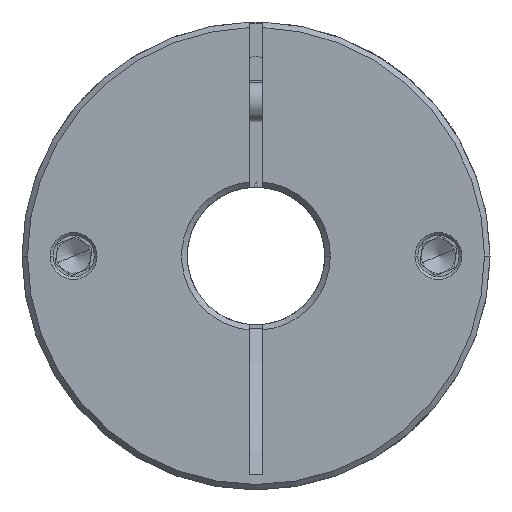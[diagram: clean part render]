
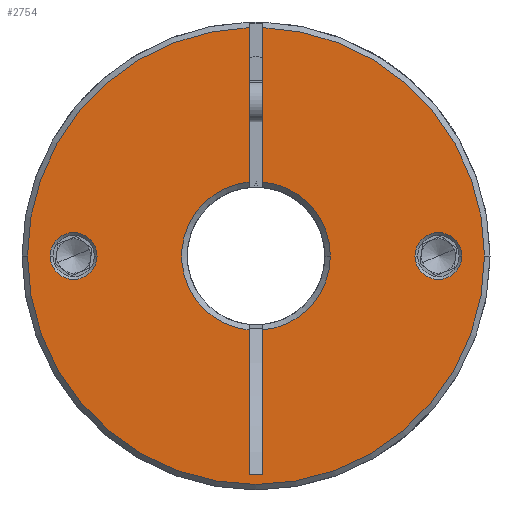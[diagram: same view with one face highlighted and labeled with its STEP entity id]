
A CAD part, front view. The second image highlights one B-rep face of the part: STEP entity #2754.
In plain terms, the highlighted planar face has unit normal (0, -1, 0).
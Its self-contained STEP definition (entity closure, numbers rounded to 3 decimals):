
#97 = DIRECTION ( 'NONE',  ( 1., 0., 0. ) ) ;
#433 = ORIENTED_EDGE ( 'NONE', *, *, #12553, .F. ) ;
#435 = LINE ( 'NONE', #3695, #4535 ) ;
#518 = DIRECTION ( 'NONE',  ( 1., 0., 0. ) ) ;
#563 = CIRCLE ( 'NONE', #6061, 33.2 ) ;
#879 = ORIENTED_EDGE ( 'NONE', *, *, #10888, .T. ) ;
#897 = EDGE_CURVE ( 'NONE', #9100, #3603, #5765, .T. ) ;
#997 = CARTESIAN_POINT ( 'NONE',  ( -2.735, -47.045, 68. ) ) ;
#1147 = ORIENTED_EDGE ( 'NONE', *, *, #2905, .T. ) ;
#1423 = EDGE_CURVE ( 'NONE', #12926, #7653, #7477, .T. ) ;
#1547 = DIRECTION ( 'NONE',  ( 0., 1., 0. ) ) ;
#1656 = EDGE_CURVE ( 'NONE', #6213, #2535, #3729, .T. ) ;
#1668 = ORIENTED_EDGE ( 'NONE', *, *, #1810, .T. ) ;
#1785 = CARTESIAN_POINT ( 'NONE',  ( -2.735, -47.045, 68. ) ) ;
#1810 = EDGE_CURVE ( 'NONE', #10273, #12797, #12224, .T. ) ;
#2020 = EDGE_CURVE ( 'NONE', #12349, #12716, #12710, .T. ) ;
#2041 = ORIENTED_EDGE ( 'NONE', *, *, #4357, .T. ) ;
#2060 = AXIS2_PLACEMENT_3D ( 'NONE', #10991, #1547, #5587 ) ;
#2194 = ORIENTED_EDGE ( 'NONE', *, *, #1656, .T. ) ;
#2365 = CARTESIAN_POINT ( 'NONE',  ( -3.735, -47.045, 101.185 ) ) ;
#2412 = FACE_BOUND ( 'NONE', #7279, .T. ) ;
#2535 = VERTEX_POINT ( 'NONE', #4263 ) ;
#2754 = ADVANCED_FACE ( 'NONE', ( #3829, #2412, #9232 ), #4500, .T. ) ;
#2807 = DIRECTION ( 'NONE',  ( 1., 0., 0. ) ) ;
#2858 = CARTESIAN_POINT ( 'NONE',  ( 8.065, -47.045, 68. ) ) ;
#2905 = EDGE_CURVE ( 'NONE', #12120, #12926, #563, .T. ) ;
#3073 = CARTESIAN_POINT ( 'NONE',  ( -2.735, -47.045, 68. ) ) ;
#3078 = ORIENTED_EDGE ( 'NONE', *, *, #1423, .T. ) ;
#3081 = AXIS2_PLACEMENT_3D ( 'NONE', #3073, #10280, #3160 ) ;
#3088 = CIRCLE ( 'NONE', #3081, 10.8 ) ;
#3160 = DIRECTION ( 'NONE',  ( 1., 0., 0. ) ) ;
#3285 = CARTESIAN_POINT ( 'NONE',  ( -1.735, -47.045, 36.279 ) ) ;
#3293 = AXIS2_PLACEMENT_3D ( 'NONE', #10042, #11085, #7974 ) ;
#3367 = DIRECTION ( 'NONE',  ( 0., 1., 0. ) ) ;
#3476 = LINE ( 'NONE', #13113, #13305 ) ;
#3603 = VERTEX_POINT ( 'NONE', #10607 ) ;
#3637 = CARTESIAN_POINT ( 'NONE',  ( -3.735, -47.045, 68. ) ) ;
#3695 = CARTESIAN_POINT ( 'NONE',  ( -3.735, -47.045, 36.279 ) ) ;
#3729 = CIRCLE ( 'NONE', #2060, 10.8 ) ;
#3829 = FACE_BOUND ( 'NONE', #10576, .T. ) ;
#3868 = ORIENTED_EDGE ( 'NONE', *, *, #4290, .T. ) ;
#3870 = CIRCLE ( 'NONE', #8516, 3.4 ) ;
#3897 = CARTESIAN_POINT ( 'NONE',  ( -3.735, -47.045, 57.246 ) ) ;
#3910 = ORIENTED_EDGE ( 'NONE', *, *, #4295, .F. ) ;
#3963 = CARTESIAN_POINT ( 'NONE',  ( -29.235, -47.045, 68. ) ) ;
#4263 = CARTESIAN_POINT ( 'NONE',  ( -1.735, -47.045, 57.246 ) ) ;
#4290 = EDGE_CURVE ( 'NONE', #2535, #6576, #3476, .T. ) ;
#4295 = EDGE_CURVE ( 'NONE', #12120, #12862, #11824, .T. ) ;
#4357 = EDGE_CURVE ( 'NONE', #12797, #10273, #5413, .T. ) ;
#4500 = PLANE ( 'NONE',  #6141 ) ;
#4535 = VECTOR ( 'NONE', #11015, 1000. ) ;
#4897 = DIRECTION ( 'NONE',  ( 1., 0., 0. ) ) ;
#5003 = DIRECTION ( 'NONE',  ( 1., 0., 0. ) ) ;
#5272 = ORIENTED_EDGE ( 'NONE', *, *, #11008, .T. ) ;
#5413 = CIRCLE ( 'NONE', #3293, 3.4 ) ;
#5587 = DIRECTION ( 'NONE',  ( 1., 0., 0. ) ) ;
#5765 = CIRCLE ( 'NONE', #6819, 3.4 ) ;
#5785 = AXIS2_PLACEMENT_3D ( 'NONE', #12369, #12321, #11387 ) ;
#6061 = AXIS2_PLACEMENT_3D ( 'NONE', #7196, #11352, #4897 ) ;
#6141 = AXIS2_PLACEMENT_3D ( 'NONE', #12892, #12980, #6615 ) ;
#6213 = VERTEX_POINT ( 'NONE', #2858 ) ;
#6309 = CARTESIAN_POINT ( 'NONE',  ( -1.735, -47.045, 68. ) ) ;
#6368 = CARTESIAN_POINT ( 'NONE',  ( 27.165, -47.045, 68. ) ) ;
#6416 = CARTESIAN_POINT ( 'NONE',  ( -3.735, -47.045, 78.754 ) ) ;
#6576 = VERTEX_POINT ( 'NONE', #3285 ) ;
#6615 = DIRECTION ( 'NONE',  ( 1., 0., 0. ) ) ;
#6675 = CIRCLE ( 'NONE', #7337, 10.8 ) ;
#6776 = DIRECTION ( 'NONE',  ( 0., 0., -1. ) ) ;
#6777 = CARTESIAN_POINT ( 'NONE',  ( -2.735, -47.045, 68. ) ) ;
#6798 = VERTEX_POINT ( 'NONE', #6926 ) ;
#6803 = EDGE_CURVE ( 'NONE', #6866, #12862, #6675, .T. ) ;
#6819 = AXIS2_PLACEMENT_3D ( 'NONE', #3963, #11332, #5003 ) ;
#6866 = VERTEX_POINT ( 'NONE', #3897 ) ;
#6926 = CARTESIAN_POINT ( 'NONE',  ( -3.735, -47.045, 36.279 ) ) ;
#7117 = ORIENTED_EDGE ( 'NONE', *, *, #6803, .T. ) ;
#7145 = ORIENTED_EDGE ( 'NONE', *, *, #2020, .T. ) ;
#7196 = CARTESIAN_POINT ( 'NONE',  ( -2.735, -47.045, 68. ) ) ;
#7279 = EDGE_LOOP ( 'NONE', ( #5272, #11608 ) ) ;
#7280 = CARTESIAN_POINT ( 'NONE',  ( -1.735, -47.045, 78.754 ) ) ;
#7281 = LINE ( 'NONE', #10953, #12545 ) ;
#7337 = AXIS2_PLACEMENT_3D ( 'NONE', #1785, #10051, #2807 ) ;
#7357 = DIRECTION ( 'NONE',  ( 0., 0., -1. ) ) ;
#7477 = CIRCLE ( 'NONE', #11841, 33.2 ) ;
#7653 = VERTEX_POINT ( 'NONE', #11846 ) ;
#7936 = EDGE_CURVE ( 'NONE', #12716, #6213, #3088, .T. ) ;
#7974 = DIRECTION ( 'NONE',  ( 1., 0., 0. ) ) ;
#8516 = AXIS2_PLACEMENT_3D ( 'NONE', #8521, #3367, #97 ) ;
#8521 = CARTESIAN_POINT ( 'NONE',  ( -29.235, -47.045, 68. ) ) ;
#8715 = CARTESIAN_POINT ( 'NONE',  ( -1.735, -47.045, 101.185 ) ) ;
#9100 = VERTEX_POINT ( 'NONE', #11814 ) ;
#9232 = FACE_OUTER_BOUND ( 'NONE', #12156, .T. ) ;
#9385 = CARTESIAN_POINT ( 'NONE',  ( 20.365, -47.045, 68. ) ) ;
#9854 = DIRECTION ( 'NONE',  ( 0., -1., 0. ) ) ;
#9968 = ORIENTED_EDGE ( 'NONE', *, *, #11107, .T. ) ;
#10042 = CARTESIAN_POINT ( 'NONE',  ( 23.765, -47.045, 68. ) ) ;
#10051 = DIRECTION ( 'NONE',  ( 0., 1., 0. ) ) ;
#10180 = VECTOR ( 'NONE', #6776, 1000. ) ;
#10231 = DIRECTION ( 'NONE',  ( 0., -1., 0. ) ) ;
#10241 = VECTOR ( 'NONE', #7357, 1000. ) ;
#10273 = VERTEX_POINT ( 'NONE', #9385 ) ;
#10280 = DIRECTION ( 'NONE',  ( 0., 1., 0. ) ) ;
#10325 = DIRECTION ( 'NONE',  ( 1., 0., 0. ) ) ;
#10433 = CIRCLE ( 'NONE', #12042, 33.2 ) ;
#10471 = ORIENTED_EDGE ( 'NONE', *, *, #7936, .T. ) ;
#10576 = EDGE_LOOP ( 'NONE', ( #2041, #1668 ) ) ;
#10607 = CARTESIAN_POINT ( 'NONE',  ( -25.835, -47.045, 68. ) ) ;
#10856 = CARTESIAN_POINT ( 'NONE',  ( -35.935, -47.045, 68. ) ) ;
#10888 = EDGE_CURVE ( 'NONE', #6576, #6798, #435, .T. ) ;
#10953 = CARTESIAN_POINT ( 'NONE',  ( -3.735, -47.045, 68. ) ) ;
#10991 = CARTESIAN_POINT ( 'NONE',  ( -2.735, -47.045, 68. ) ) ;
#11008 = EDGE_CURVE ( 'NONE', #3603, #9100, #3870, .T. ) ;
#11015 = DIRECTION ( 'NONE',  ( -1., 0., 0. ) ) ;
#11049 = DIRECTION ( 'NONE',  ( 0., 0., -1. ) ) ;
#11085 = DIRECTION ( 'NONE',  ( 0., 1., 0. ) ) ;
#11107 = EDGE_CURVE ( 'NONE', #7653, #12349, #10433, .T. ) ;
#11332 = DIRECTION ( 'NONE',  ( 0., 1., 0. ) ) ;
#11352 = DIRECTION ( 'NONE',  ( 0., -1., 0. ) ) ;
#11387 = DIRECTION ( 'NONE',  ( 1., 0., 0. ) ) ;
#11608 = ORIENTED_EDGE ( 'NONE', *, *, #897, .T. ) ;
#11814 = CARTESIAN_POINT ( 'NONE',  ( -32.635, -47.045, 68. ) ) ;
#11824 = LINE ( 'NONE', #3637, #10180 ) ;
#11841 = AXIS2_PLACEMENT_3D ( 'NONE', #997, #10231, #10325 ) ;
#11846 = CARTESIAN_POINT ( 'NONE',  ( 30.465, -47.045, 68. ) ) ;
#12042 = AXIS2_PLACEMENT_3D ( 'NONE', #6777, #9854, #518 ) ;
#12120 = VERTEX_POINT ( 'NONE', #2365 ) ;
#12156 = EDGE_LOOP ( 'NONE', ( #3910, #1147, #3078, #9968, #7145, #10471, #2194, #3868, #879, #433, #7117 ) ) ;
#12224 = CIRCLE ( 'NONE', #5785, 3.4 ) ;
#12321 = DIRECTION ( 'NONE',  ( 0., 1., 0. ) ) ;
#12349 = VERTEX_POINT ( 'NONE', #8715 ) ;
#12369 = CARTESIAN_POINT ( 'NONE',  ( 23.765, -47.045, 68. ) ) ;
#12545 = VECTOR ( 'NONE', #11049, 1000. ) ;
#12553 = EDGE_CURVE ( 'NONE', #6866, #6798, #7281, .T. ) ;
#12710 = LINE ( 'NONE', #6309, #10241 ) ;
#12716 = VERTEX_POINT ( 'NONE', #7280 ) ;
#12797 = VERTEX_POINT ( 'NONE', #6368 ) ;
#12862 = VERTEX_POINT ( 'NONE', #6416 ) ;
#12892 = CARTESIAN_POINT ( 'NONE',  ( -2.735, -47.045, 68. ) ) ;
#12926 = VERTEX_POINT ( 'NONE', #10856 ) ;
#12973 = DIRECTION ( 'NONE',  ( 0., 0., -1. ) ) ;
#12980 = DIRECTION ( 'NONE',  ( 0., -1., 0. ) ) ;
#13113 = CARTESIAN_POINT ( 'NONE',  ( -1.735, -47.045, 68. ) ) ;
#13305 = VECTOR ( 'NONE', #12973, 1000. ) ;
